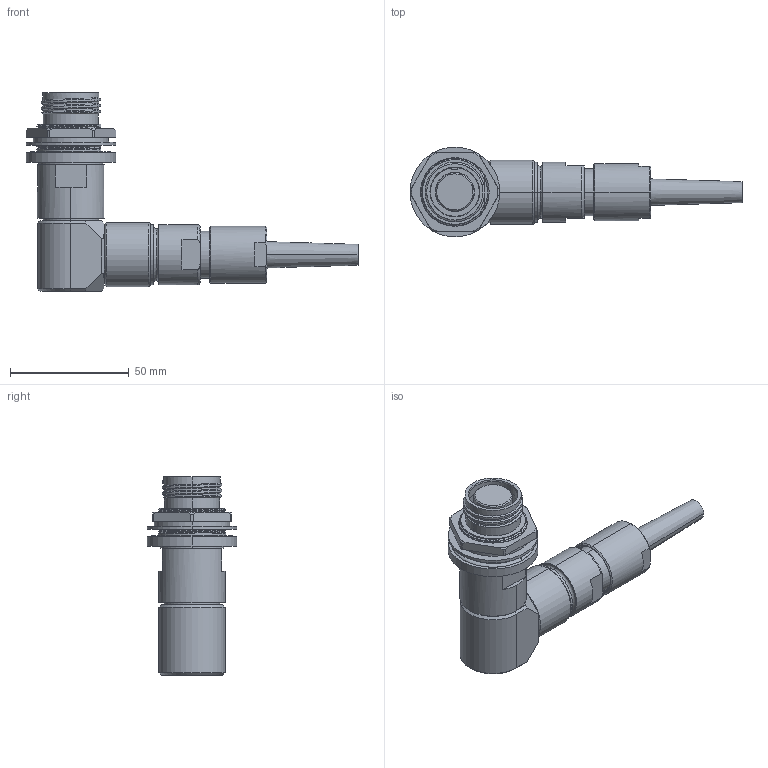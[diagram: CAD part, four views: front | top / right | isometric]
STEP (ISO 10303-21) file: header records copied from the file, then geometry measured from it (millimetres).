
FILE_DESCRIPTION (( 'STEP AP214' ), '1' );
FILE_NAME ('QLINK90-RJTX-15XX-SXXX.STEP', '2025-10-22T15:34:41', ( '' ), ( '' ), 'SwSTEP 2.0', 'SolidWorks 2024', '' );
FILE_SCHEMA (( 'AUTOMOTIVE_DESIGN' ));
Length unit declared in the file: millimetre
Products named in the file (1): QLINK90-RJTX-15XX-SXXX
Bounding box: 140.01 x 37.85 x 83.69 mm (x, y, z)
Volume: 88212.3 mm3; surface area: 26300.4 mm2
Topology: 3 solids, 5 shells, 316 faces, 778 edges, 501 vertices
Faces by surface type: cylinder 108, plane 75, cone 62, bspline 48, torus 23
Entity records: 28051 total; most frequent: CARTESIAN_POINT 21111, ORIENTED_EDGE 1556, DIRECTION 1329, EDGE_CURVE 778, AXIS2_PLACEMENT_3D 534, VERTEX_POINT 501, EDGE_LOOP 349, ADVANCED_FACE 316
